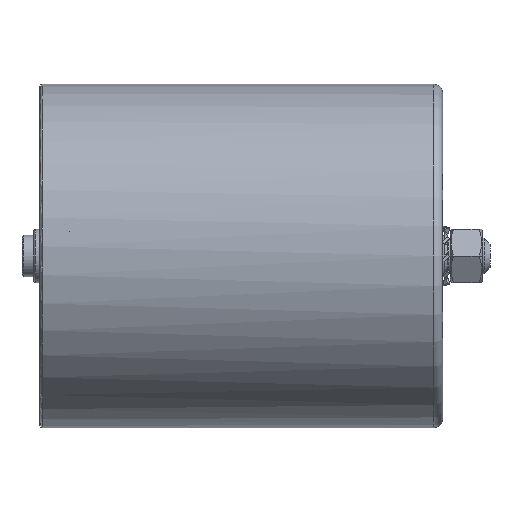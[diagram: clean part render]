
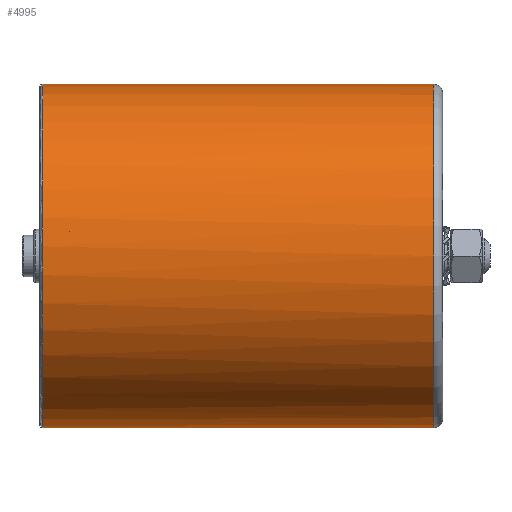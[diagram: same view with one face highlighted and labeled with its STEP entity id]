
A CAD part, left-side view. The second image highlights one B-rep face of the part: STEP entity #4995.
In plain terms, the highlighted cylindrical face has radius 58 mm (diameter 116 mm), a partial arc.
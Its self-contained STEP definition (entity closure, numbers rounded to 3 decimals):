
#594 = VERTEX_POINT ( 'NONE', #4253 ) ;
#640 = DIRECTION ( 'NONE',  ( 0., -1., 0. ) ) ;
#785 = CARTESIAN_POINT ( 'NONE',  ( 0., 126., 0. ) ) ;
#1527 = CIRCLE ( 'NONE', #4164, 58. ) ;
#1534 = VECTOR ( 'NONE', #5038, 1000. ) ;
#1701 = DIRECTION ( 'NONE',  ( 0., -1., 0. ) ) ;
#1707 = AXIS2_PLACEMENT_3D ( 'NONE', #785, #8646, #10440 ) ;
#1904 = CARTESIAN_POINT ( 'NONE',  ( 0., 135., 0. ) ) ;
#2126 = ORIENTED_EDGE ( 'NONE', *, *, #3693, .T. ) ;
#2258 = EDGE_CURVE ( 'NONE', #12211, #8378, #4757, .T. ) ;
#3390 = CARTESIAN_POINT ( 'NONE',  ( 0., 135., 0. ) ) ;
#3442 = EDGE_CURVE ( 'NONE', #7054, #8378, #1527, .T. ) ;
#3555 = CARTESIAN_POINT ( 'NONE',  ( 0., 135., -58. ) ) ;
#3693 = EDGE_CURVE ( 'NONE', #12066, #7054, #8283, .T. ) ;
#4090 = VECTOR ( 'NONE', #1701, 1000. ) ;
#4164 = AXIS2_PLACEMENT_3D ( 'NONE', #5558, #12527, #5931 ) ;
#4253 = CARTESIAN_POINT ( 'NONE',  ( -41.012, 135., -41.012 ) ) ;
#4480 = EDGE_CURVE ( 'NONE', #594, #12066, #8634, .T. ) ;
#4576 = CARTESIAN_POINT ( 'NONE',  ( 0., 3., -58. ) ) ;
#4736 = AXIS2_PLACEMENT_3D ( 'NONE', #1904, #4971, #11759 ) ;
#4757 = LINE ( 'NONE', #10454, #4090 ) ;
#4971 = DIRECTION ( 'NONE',  ( 0., -1., 0. ) ) ;
#4995 = ADVANCED_FACE ( 'NONE', ( #9543 ), #7517, .T. ) ;
#5038 = DIRECTION ( 'NONE',  ( 0., -1., 0. ) ) ;
#5294 = ORIENTED_EDGE ( 'NONE', *, *, #3442, .T. ) ;
#5558 = CARTESIAN_POINT ( 'NONE',  ( 0., 3., 0. ) ) ;
#5931 = DIRECTION ( 'NONE',  ( 0., 0., 1. ) ) ;
#6635 = ORIENTED_EDGE ( 'NONE', *, *, #4480, .T. ) ;
#7054 = VERTEX_POINT ( 'NONE', #4576 ) ;
#7422 = DIRECTION ( 'NONE',  ( -0.707, 0., -0.707 ) ) ;
#7517 = CYLINDRICAL_SURFACE ( 'NONE', #1707, 58. ) ;
#8283 = LINE ( 'NONE', #12193, #1534 ) ;
#8378 = VERTEX_POINT ( 'NONE', #8983 ) ;
#8634 = CIRCLE ( 'NONE', #10277, 58. ) ;
#8646 = DIRECTION ( 'NONE',  ( 0., -1., 0. ) ) ;
#8761 = ORIENTED_EDGE ( 'NONE', *, *, #11491, .T. ) ;
#8983 = CARTESIAN_POINT ( 'NONE',  ( 0., 3., 58. ) ) ;
#9357 = EDGE_LOOP ( 'NONE', ( #11516, #8761, #6635, #2126, #5294 ) ) ;
#9543 = FACE_OUTER_BOUND ( 'NONE', #9357, .T. ) ;
#9616 = CARTESIAN_POINT ( 'NONE',  ( 0., 135., 58. ) ) ;
#10277 = AXIS2_PLACEMENT_3D ( 'NONE', #3390, #640, #7422 ) ;
#10440 = DIRECTION ( 'NONE',  ( 0., 0., -1. ) ) ;
#10454 = CARTESIAN_POINT ( 'NONE',  ( 0., 126., 58. ) ) ;
#10670 = CIRCLE ( 'NONE', #4736, 58. ) ;
#11491 = EDGE_CURVE ( 'NONE', #12211, #594, #10670, .T. ) ;
#11516 = ORIENTED_EDGE ( 'NONE', *, *, #2258, .F. ) ;
#11759 = DIRECTION ( 'NONE',  ( -0.707, 0., -0.707 ) ) ;
#12066 = VERTEX_POINT ( 'NONE', #3555 ) ;
#12193 = CARTESIAN_POINT ( 'NONE',  ( 0., 126., -58. ) ) ;
#12211 = VERTEX_POINT ( 'NONE', #9616 ) ;
#12527 = DIRECTION ( 'NONE',  ( 0., 1., 0. ) ) ;
